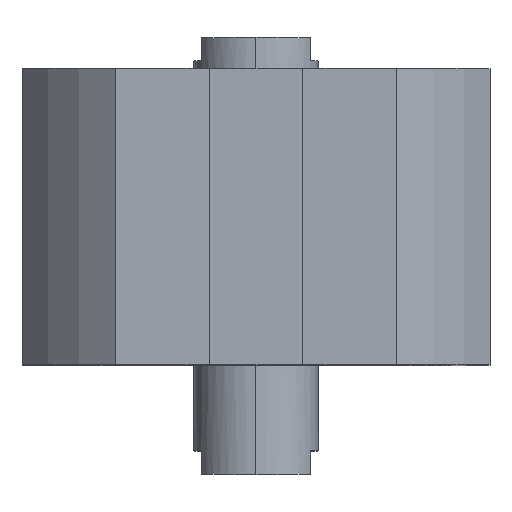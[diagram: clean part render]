
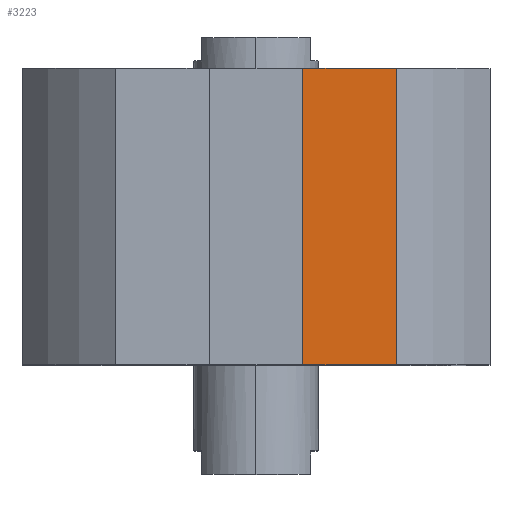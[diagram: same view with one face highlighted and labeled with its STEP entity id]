
A CAD part, top view. The second image highlights one B-rep face of the part: STEP entity #3223.
In plain terms, the highlighted planar face has unit normal (0, 0, 1).
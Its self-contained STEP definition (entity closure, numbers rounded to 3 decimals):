
#185 = VERTEX_POINT ( 'NONE', #4500 ) ;
#200 = VECTOR ( 'NONE', #1552, 1000. ) ;
#235 = CARTESIAN_POINT ( 'NONE',  ( 0., -38., 30. ) ) ;
#250 = DIRECTION ( 'NONE',  ( 0., 0., 1. ) ) ;
#562 = CARTESIAN_POINT ( 'NONE',  ( 6., -38., 30. ) ) ;
#871 = DIRECTION ( 'NONE',  ( 1., 0., 0. ) ) ;
#932 = EDGE_CURVE ( 'NONE', #1260, #185, #944, .T. ) ;
#944 = LINE ( 'NONE', #1920, #4414 ) ;
#1260 = VERTEX_POINT ( 'NONE', #562 ) ;
#1269 = DIRECTION ( 'NONE',  ( 1., 0., 0. ) ) ;
#1276 = DIRECTION ( 'NONE',  ( 0., 1., 0. ) ) ;
#1380 = EDGE_LOOP ( 'NONE', ( #4224, #1667, #3117, #4164 ) ) ;
#1552 = DIRECTION ( 'NONE',  ( 1., 0., 0. ) ) ;
#1572 = VECTOR ( 'NONE', #3999, 1000. ) ;
#1618 = CARTESIAN_POINT ( 'NONE',  ( 18.028, 0., 30. ) ) ;
#1667 = ORIENTED_EDGE ( 'NONE', *, *, #3728, .F. ) ;
#1826 = VERTEX_POINT ( 'NONE', #1618 ) ;
#1920 = CARTESIAN_POINT ( 'NONE',  ( 0., -38., 30. ) ) ;
#1996 = CARTESIAN_POINT ( 'NONE',  ( 6., 0., 30. ) ) ;
#2641 = CARTESIAN_POINT ( 'NONE',  ( 18.028, -38., 30. ) ) ;
#2685 = EDGE_CURVE ( 'NONE', #185, #1826, #4452, .T. ) ;
#3117 = ORIENTED_EDGE ( 'NONE', *, *, #932, .T. ) ;
#3223 = ADVANCED_FACE ( 'NONE', ( #4077 ), #3696, .T. ) ;
#3331 = VERTEX_POINT ( 'NONE', #1996 ) ;
#3413 = VECTOR ( 'NONE', #1276, 1000. ) ;
#3524 = LINE ( 'NONE', #4011, #1572 ) ;
#3696 = PLANE ( 'NONE',  #4288 ) ;
#3728 = EDGE_CURVE ( 'NONE', #1260, #3331, #3524, .T. ) ;
#3740 = EDGE_CURVE ( 'NONE', #3331, #1826, #4006, .T. ) ;
#3952 = CARTESIAN_POINT ( 'NONE',  ( 0., 0., 30. ) ) ;
#3999 = DIRECTION ( 'NONE',  ( 0., 1., 0. ) ) ;
#4006 = LINE ( 'NONE', #3952, #200 ) ;
#4011 = CARTESIAN_POINT ( 'NONE',  ( 6., -38., 30. ) ) ;
#4077 = FACE_OUTER_BOUND ( 'NONE', #1380, .T. ) ;
#4164 = ORIENTED_EDGE ( 'NONE', *, *, #2685, .T. ) ;
#4224 = ORIENTED_EDGE ( 'NONE', *, *, #3740, .F. ) ;
#4288 = AXIS2_PLACEMENT_3D ( 'NONE', #235, #250, #1269 ) ;
#4414 = VECTOR ( 'NONE', #871, 1000. ) ;
#4452 = LINE ( 'NONE', #2641, #3413 ) ;
#4500 = CARTESIAN_POINT ( 'NONE',  ( 18.028, -38., 30. ) ) ;
